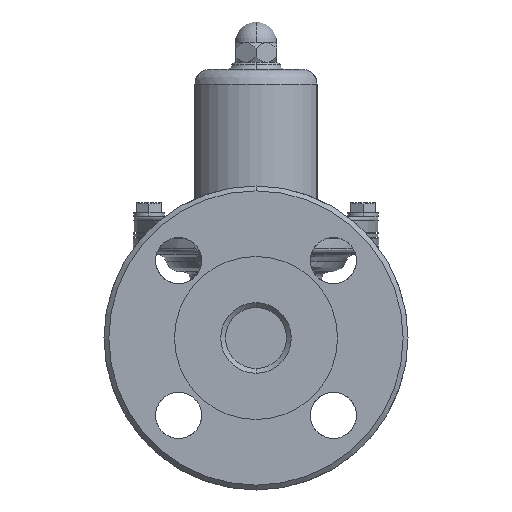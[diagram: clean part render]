
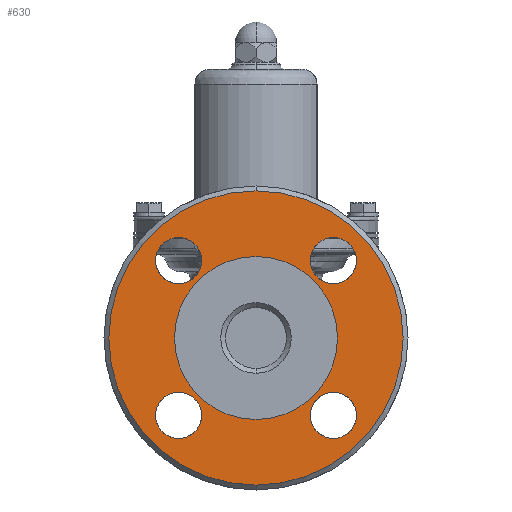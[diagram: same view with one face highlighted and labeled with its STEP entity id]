
A CAD part, left-side view. The second image highlights one B-rep face of the part: STEP entity #630.
In plain terms, the highlighted planar face has unit normal (-1, 0, 0).
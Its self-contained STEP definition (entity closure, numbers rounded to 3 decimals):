
#630=ADVANCED_FACE('',(#2986,#2987,#2988,#2989,#2990,#2991),#2985,.T.);
#2985=PLANE('',#9476);
#2986=FACE_OUTER_BOUND('',#9477,.T.);
#2987=FACE_BOUND('',#9478,.T.);
#2988=FACE_BOUND('',#9479,.T.);
#2989=FACE_BOUND('',#9480,.T.);
#2990=FACE_BOUND('',#9481,.T.);
#2991=FACE_BOUND('',#9482,.T.);
#9473=CARTESIAN_POINT('',(-82.,-114.789,-131.));
#9474=DIRECTION('',(-1.,0.,0.));
#9475=DIRECTION('',(0.,0.,1.));
#9476=AXIS2_PLACEMENT_3D('',#9473,#9474,#9475);
#9477=EDGE_LOOP('',(#15137,#15138));
#9478=EDGE_LOOP('',(#15139,#15140));
#9479=EDGE_LOOP('',(#15141,#15142));
#9480=EDGE_LOOP('',(#15143,#15144));
#9481=EDGE_LOOP('',(#15145,#15146));
#9482=EDGE_LOOP('',(#15147,#15148));
#15137=ORIENTED_EDGE('',*,*,#17607,.T.);
#15138=ORIENTED_EDGE('',*,*,#17608,.T.);
#15139=ORIENTED_EDGE('',*,*,#17609,.F.);
#15140=ORIENTED_EDGE('',*,*,#17610,.F.);
#15141=ORIENTED_EDGE('',*,*,#17611,.F.);
#15142=ORIENTED_EDGE('',*,*,#17612,.F.);
#15143=ORIENTED_EDGE('',*,*,#17613,.F.);
#15144=ORIENTED_EDGE('',*,*,#17614,.F.);
#15145=ORIENTED_EDGE('',*,*,#17615,.F.);
#15146=ORIENTED_EDGE('',*,*,#17616,.F.);
#15147=ORIENTED_EDGE('',*,*,#17617,.F.);
#15148=ORIENTED_EDGE('',*,*,#17618,.F.);
#17607=EDGE_CURVE('',#22977,#22978,#22979,.T.);
#17608=EDGE_CURVE('',#22978,#22977,#22985,.T.);
#17609=EDGE_CURVE('',#22991,#22992,#22993,.T.);
#17610=EDGE_CURVE('',#22992,#22991,#22999,.T.);
#17611=EDGE_CURVE('',#23005,#23006,#23007,.T.);
#17612=EDGE_CURVE('',#23006,#23005,#23013,.T.);
#17613=EDGE_CURVE('',#23019,#23020,#23021,.T.);
#17614=EDGE_CURVE('',#23020,#23019,#23027,.T.);
#17615=EDGE_CURVE('',#23033,#23034,#23035,.T.);
#17616=EDGE_CURVE('',#23034,#23033,#23041,.T.);
#17617=EDGE_CURVE('',#23047,#23048,#23049,.T.);
#17618=EDGE_CURVE('',#23048,#23047,#23055,.T.);
#22977=VERTEX_POINT('',#34314);
#22978=VERTEX_POINT('',#34315);
#22979=CIRCLE('',#34319,60.5);
#22985=CIRCLE('',#34323,60.5);
#22991=VERTEX_POINT('',#34324);
#22992=VERTEX_POINT('',#34325);
#22993=CIRCLE('',#34329,9.5);
#22999=CIRCLE('',#34333,9.5);
#23005=VERTEX_POINT('',#34334);
#23006=VERTEX_POINT('',#34335);
#23007=CIRCLE('',#34339,9.5);
#23013=CIRCLE('',#34343,9.5);
#23019=VERTEX_POINT('',#34344);
#23020=VERTEX_POINT('',#34345);
#23021=CIRCLE('',#34349,9.5);
#23027=CIRCLE('',#34353,9.5);
#23033=VERTEX_POINT('',#34354);
#23034=VERTEX_POINT('',#34355);
#23035=CIRCLE('',#34359,9.5);
#23041=CIRCLE('',#34363,9.5);
#23047=VERTEX_POINT('',#34364);
#23048=VERTEX_POINT('',#34365);
#23049=CIRCLE('',#34369,33.5);
#23055=CIRCLE('',#34373,33.5);
#34314=CARTESIAN_POINT('',(-82.,0.,60.5));
#34315=CARTESIAN_POINT('',(-82.,0.,-60.5));
#34316=CARTESIAN_POINT('',(-82.,0.,0.));
#34317=DIRECTION('',(-1.,0.,0.));
#34318=DIRECTION('',(0.,0.,1.));
#34319=AXIS2_PLACEMENT_3D('',#34316,#34317,#34318);
#34320=CARTESIAN_POINT('',(-82.,0.,0.));
#34321=DIRECTION('',(-1.,0.,0.));
#34322=DIRECTION('',(0.,0.,1.));
#34323=AXIS2_PLACEMENT_3D('',#34320,#34321,#34322);
#34324=CARTESIAN_POINT('',(-82.,31.82,-41.32));
#34325=CARTESIAN_POINT('',(-82.,31.82,-22.32));
#34326=CARTESIAN_POINT('',(-82.,31.82,-31.82));
#34327=DIRECTION('',(-1.,0.,0.));
#34328=DIRECTION('',(0.,0.,1.));
#34329=AXIS2_PLACEMENT_3D('',#34326,#34327,#34328);
#34330=CARTESIAN_POINT('',(-82.,31.82,-31.82));
#34331=DIRECTION('',(-1.,0.,0.));
#34332=DIRECTION('',(0.,0.,1.));
#34333=AXIS2_PLACEMENT_3D('',#34330,#34331,#34332);
#34334=CARTESIAN_POINT('',(-82.,-31.82,-41.32));
#34335=CARTESIAN_POINT('',(-82.,-31.82,-22.32));
#34336=CARTESIAN_POINT('',(-82.,-31.82,-31.82));
#34337=DIRECTION('',(-1.,0.,0.));
#34338=DIRECTION('',(0.,0.,1.));
#34339=AXIS2_PLACEMENT_3D('',#34336,#34337,#34338);
#34340=CARTESIAN_POINT('',(-82.,-31.82,-31.82));
#34341=DIRECTION('',(-1.,0.,0.));
#34342=DIRECTION('',(0.,0.,1.));
#34343=AXIS2_PLACEMENT_3D('',#34340,#34341,#34342);
#34344=CARTESIAN_POINT('',(-82.,-31.82,22.32));
#34345=CARTESIAN_POINT('',(-82.,-31.82,41.32));
#34346=CARTESIAN_POINT('',(-82.,-31.82,31.82));
#34347=DIRECTION('',(-1.,0.,0.));
#34348=DIRECTION('',(0.,0.,1.));
#34349=AXIS2_PLACEMENT_3D('',#34346,#34347,#34348);
#34350=CARTESIAN_POINT('',(-82.,-31.82,31.82));
#34351=DIRECTION('',(-1.,0.,0.));
#34352=DIRECTION('',(0.,0.,1.));
#34353=AXIS2_PLACEMENT_3D('',#34350,#34351,#34352);
#34354=CARTESIAN_POINT('',(-82.,31.82,22.32));
#34355=CARTESIAN_POINT('',(-82.,31.82,41.32));
#34356=CARTESIAN_POINT('',(-82.,31.82,31.82));
#34357=DIRECTION('',(-1.,0.,0.));
#34358=DIRECTION('',(0.,0.,1.));
#34359=AXIS2_PLACEMENT_3D('',#34356,#34357,#34358);
#34360=CARTESIAN_POINT('',(-82.,31.82,31.82));
#34361=DIRECTION('',(-1.,0.,0.));
#34362=DIRECTION('',(0.,0.,1.));
#34363=AXIS2_PLACEMENT_3D('',#34360,#34361,#34362);
#34364=CARTESIAN_POINT('',(-82.,0.,-33.5));
#34365=CARTESIAN_POINT('',(-82.,0.,33.5));
#34366=CARTESIAN_POINT('',(-82.,0.,0.));
#34367=DIRECTION('',(-1.,0.,0.));
#34368=DIRECTION('',(0.,0.,1.));
#34369=AXIS2_PLACEMENT_3D('',#34366,#34367,#34368);
#34370=CARTESIAN_POINT('',(-82.,0.,0.));
#34371=DIRECTION('',(-1.,0.,0.));
#34372=DIRECTION('',(0.,0.,1.));
#34373=AXIS2_PLACEMENT_3D('',#34370,#34371,#34372);
